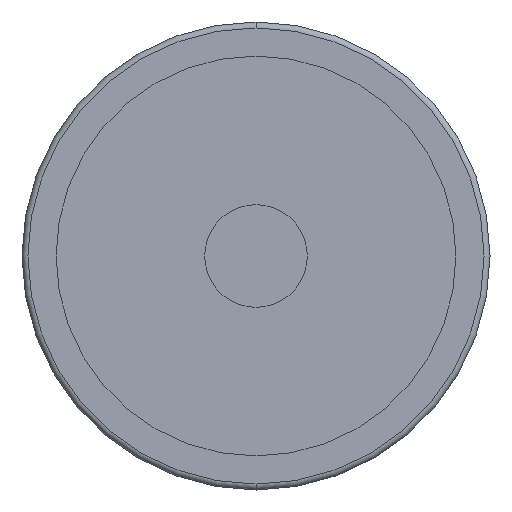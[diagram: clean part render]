
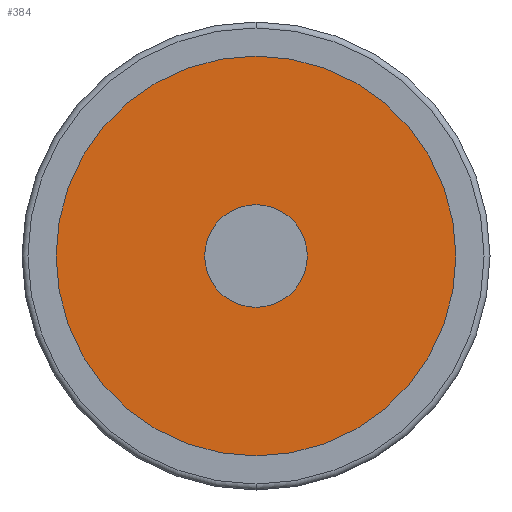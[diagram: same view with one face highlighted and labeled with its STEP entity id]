
A CAD part, front view. The second image highlights one B-rep face of the part: STEP entity #384.
In plain terms, the highlighted planar face has unit normal (0, -1, 0).
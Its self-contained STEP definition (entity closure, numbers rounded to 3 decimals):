
#63 = CARTESIAN_POINT ( 'NONE',  ( -34.25, 4.5, 0. ) ) ;
#136 = CIRCLE ( 'NONE', #784, 34.25 ) ;
#225 = CARTESIAN_POINT ( 'NONE',  ( 0., 4.5, 0. ) ) ;
#296 = EDGE_LOOP ( 'NONE', ( #350, #2020 ) ) ;
#331 = PLANE ( 'NONE',  #2319 ) ;
#350 = ORIENTED_EDGE ( 'NONE', *, *, #1502, .F. ) ;
#384 = ADVANCED_FACE ( 'NONE', ( #562, #822 ), #331, .T. ) ;
#394 = DIRECTION ( 'NONE',  ( 1., 0., 0. ) ) ;
#557 = EDGE_CURVE ( 'NONE', #1032, #560, #1749, .T. ) ;
#560 = VERTEX_POINT ( 'NONE', #692 ) ;
#562 = FACE_OUTER_BOUND ( 'NONE', #671, .T. ) ;
#588 = AXIS2_PLACEMENT_3D ( 'NONE', #813, #1801, #3048 ) ;
#610 = CIRCLE ( 'NONE', #2421, 34.25 ) ;
#671 = EDGE_LOOP ( 'NONE', ( #2338, #1225 ) ) ;
#692 = CARTESIAN_POINT ( 'NONE',  ( 8., 4.5, 0. ) ) ;
#722 = DIRECTION ( 'NONE',  ( 0., -1., 0. ) ) ;
#784 = AXIS2_PLACEMENT_3D ( 'NONE', #2624, #1400, #394 ) ;
#813 = CARTESIAN_POINT ( 'NONE',  ( 0., 4.5, 0. ) ) ;
#822 = FACE_BOUND ( 'NONE', #296, .T. ) ;
#1032 = VERTEX_POINT ( 'NONE', #2199 ) ;
#1201 = EDGE_CURVE ( 'NONE', #1862, #1394, #610, .T. ) ;
#1225 = ORIENTED_EDGE ( 'NONE', *, *, #1985, .T. ) ;
#1330 = DIRECTION ( 'NONE',  ( 1., 0., 0. ) ) ;
#1361 = CIRCLE ( 'NONE', #588, 8. ) ;
#1394 = VERTEX_POINT ( 'NONE', #1976 ) ;
#1400 = DIRECTION ( 'NONE',  ( 0., -1., 0. ) ) ;
#1502 = EDGE_CURVE ( 'NONE', #560, #1032, #1361, .T. ) ;
#1525 = DIRECTION ( 'NONE',  ( 1., 0., 0. ) ) ;
#1749 = CIRCLE ( 'NONE', #2848, 8. ) ;
#1801 = DIRECTION ( 'NONE',  ( 0., -1., 0. ) ) ;
#1814 = DIRECTION ( 'NONE',  ( 0., -1., 0. ) ) ;
#1822 = CARTESIAN_POINT ( 'NONE',  ( 0., 4.5, 0. ) ) ;
#1862 = VERTEX_POINT ( 'NONE', #63 ) ;
#1976 = CARTESIAN_POINT ( 'NONE',  ( 34.25, 4.5, 0. ) ) ;
#1985 = EDGE_CURVE ( 'NONE', #1394, #1862, #136, .T. ) ;
#2020 = ORIENTED_EDGE ( 'NONE', *, *, #557, .F. ) ;
#2199 = CARTESIAN_POINT ( 'NONE',  ( -8., 4.5, 0. ) ) ;
#2319 = AXIS2_PLACEMENT_3D ( 'NONE', #2573, #1814, #1525 ) ;
#2338 = ORIENTED_EDGE ( 'NONE', *, *, #1201, .T. ) ;
#2421 = AXIS2_PLACEMENT_3D ( 'NONE', #1822, #2819, #1330 ) ;
#2573 = CARTESIAN_POINT ( 'NONE',  ( -34.25, 4.5, 0. ) ) ;
#2624 = CARTESIAN_POINT ( 'NONE',  ( 0., 4.5, 0. ) ) ;
#2819 = DIRECTION ( 'NONE',  ( 0., -1., 0. ) ) ;
#2848 = AXIS2_PLACEMENT_3D ( 'NONE', #225, #722, #2969 ) ;
#2969 = DIRECTION ( 'NONE',  ( 1., 0., 0. ) ) ;
#3048 = DIRECTION ( 'NONE',  ( 1., 0., 0. ) ) ;
